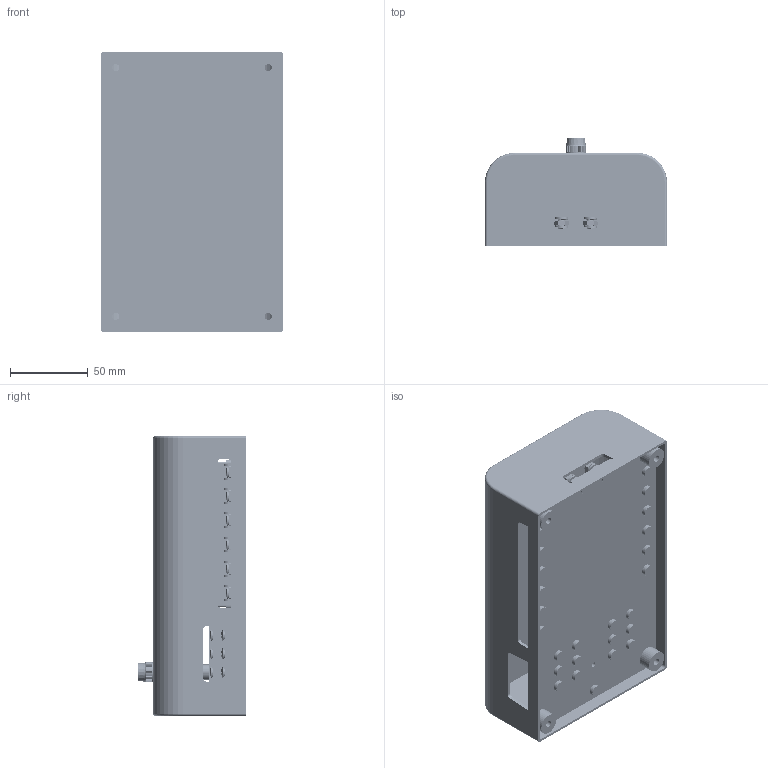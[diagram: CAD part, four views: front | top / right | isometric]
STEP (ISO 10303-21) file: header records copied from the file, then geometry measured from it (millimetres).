
FILE_DESCRIPTION(/* description */ (''),/* implementation_level */ '2;1');
FILE_NAME(/* name */ 'C:\Users\Hani\Desktop\work\BLR-I-912-G\BLR-I-912-G.stp',/* time_stamp */ '2021-06-15T21:08:46-07:00',/* author */ ('Hani'),/* organization */ (''),/* preprocessor_version */ 'ST-DEVELOPER v17',/* originating_system */ 'Autodesk Inventor 2019',/* authorisation */ '');
FILE_SCHEMA (('AUTOMOTIVE_DESIGN { 1 0 10303 214 3 1 1 }'));
Products named in the file (23): BLR-I-310-G; BLR-I-912-G_base; BLOCK; plate2; STUD; HEX NUT; cover; LOCK WASHER; narrowplate; narrowplate_MIR; wideplate; wideplate_MIR; M4 SCREW_MIR; M4 SCREW_MIR1; .300terminal; .300terminal_MIR; M4 SCREW; M4 SCREW_MIR2; PLATE3; STUD_CPY; HEX NUT_CPY; LOCK WASHER_CPY; PLASTIC-HEAD THUMB SCREWS
Assembly tree (52 placements, depth 2):
  BLR-I-310-G
    BLR-I-912-G_base
    BLOCK
    plate2
    STUD
    HEX NUT  x2
    cover
    LOCK WASHER  x2
    narrowplate
    narrowplate_MIR
    wideplate
    wideplate_MIR
    M4 SCREW  x12
    M4 SCREW_MIR  x3
    M4 SCREW_MIR1  x3
    .300terminal
    .300terminal_MIR
    M4 SCREW_MIR2  x6
    PLATE3  x2
    STUD_CPY  x2
    HEX NUT_CPY  x4
    LOCK WASHER_CPY  x4
    PLASTIC-HEAD THUMB SCREWS
Bounding box: 117.09 x 70.02 x 180.09 mm (x, y, z)
Volume: 281261.6 mm3; surface area: 201824.3 mm2
Topology: 62 solids, 62 shells, 3233 faces, 8680 edges, 5681 vertices
Faces by surface type: plane 1728, cylinder 787, cone 403, bspline 216, torus 59, sphere 40
Full cylindrical faces by diameter (mm): 3.091 x146, 3.251 x1, 3.454 x36, 3.769 x48, 3.795 x6, 3.81 x1, 4 x147, 4.572 x5, 4.801 x51, 4.826 x18, 5.08 x5, 6.8 x1, 7 x1, 7.112 x27, 7.62 x1, 9.8 x1, 9.906 x1, 9.962 x1, 10.922 x4, 13 x1, 13.716 x4
Entity records: 82631 total; most frequent: CARTESIAN_POINT 30406, ORIENTED_EDGE 11078, DIRECTION 10114, EDGE_CURVE 5539, VERTEX_POINT 3626, LINE 3398, VECTOR 3398, AXIS2_PLACEMENT_3D 3358
